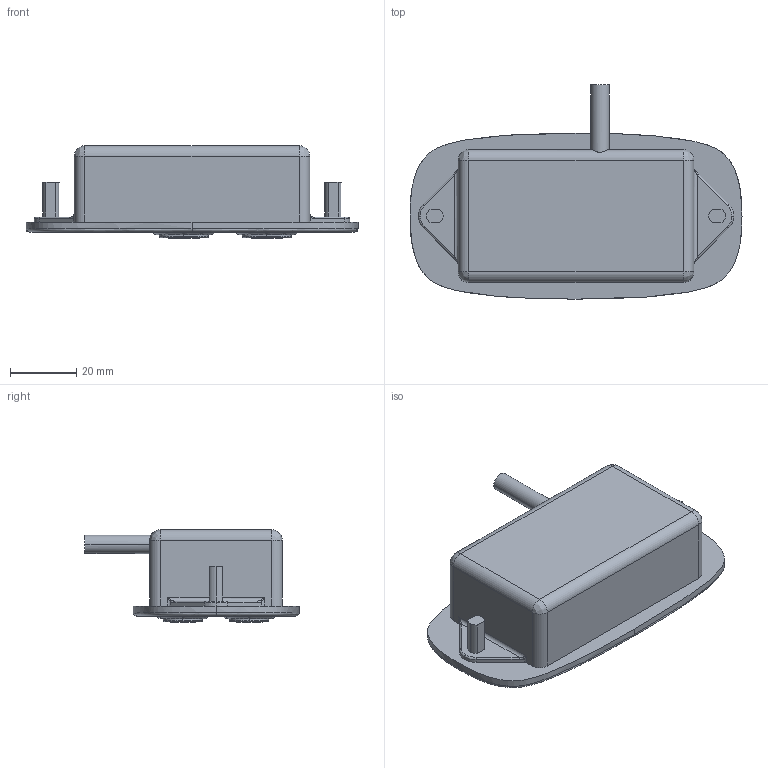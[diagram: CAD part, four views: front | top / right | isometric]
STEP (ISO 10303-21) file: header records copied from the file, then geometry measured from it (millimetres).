
FILE_DESCRIPTION (( 'STEP AP203' ), '1' );
FILE_NAME ('3D_TFH16-A.STEP', '2017-02-10T02:43:41', ( 'Phil Lee' ), ( 'Toshiba' ), 'SwSTEP 2.0', 'SolidWorks 2015', '' );
FILE_SCHEMA (( 'CONFIG_CONTROL_DESIGN' ));
Length unit declared in the file: millimetre
Products named in the file (1): 3D_TFH16-A
Bounding box: 100 x 64.5 x 27.88 mm (x, y, z)
Volume: 79859.4 mm3; surface area: 17777.6 mm2
Topology: 1 solids, 1 shells, 693 faces, 1744 edges, 1069 vertices
Faces by surface type: plane 297, cylinder 217, bspline 179
Entity records: 32643 total; most frequent: CARTESIAN_POINT 17039, ORIENTED_EDGE 3472, DIRECTION 2853, EDGE_CURVE 1736, VERTEX_POINT 1069, VECTOR 1027, LINE 1027, AXIS2_PLACEMENT_3D 913
